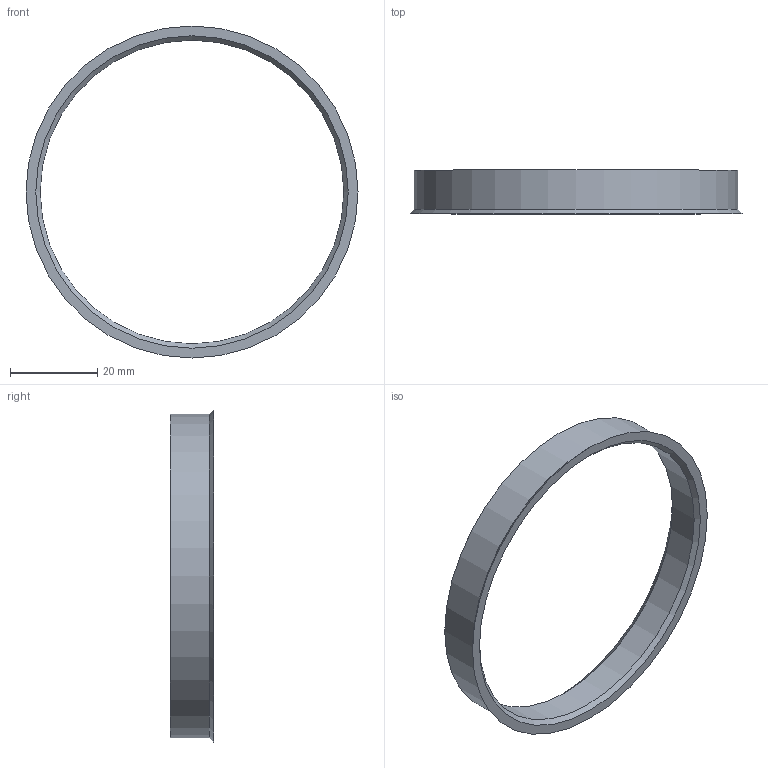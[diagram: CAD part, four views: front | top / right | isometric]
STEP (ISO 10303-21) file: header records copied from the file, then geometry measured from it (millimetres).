
FILE_DESCRIPTION(/* description */ (''),/* implementation_level */ '2;1');
FILE_NAME(/* name */ 'G:\CAD Library\Team Tasks\DIPP\11th Intake\Bradley Coles\Design Drafting\Random\Hub Rings\ipt\HubRing_74.1-69.6.stp',/* time_stamp */ '2025-07-22T13:43:08+08:00',/* author */ ('BCOLES'),/* organization */ (''),/* preprocessor_version */ 'ST-DEVELOPER v18.1',/* originating_system */ 'Autodesk Inventor 2022',/* authorisation */ '');
FILE_SCHEMA (('AUTOMOTIVE_DESIGN { 1 0 10303 214 3 1 1 }'));
Length unit declared in the file: millimetre
Products named in the file (1): HubRing_74.1-69.6
Bounding box: 76.1 x 10 x 76.1 mm (x, y, z)
Volume: 4640.2 mm3; surface area: 5489.3 mm2
Topology: 1 solids, 1 shells, 7 faces, 13 edges, 8 vertices
Faces by surface type: cone 3, cylinder 2, plane 2
Full cylindrical faces by diameter (mm): 69.6 x1, 74.1 x1
Entity records: 226 total; most frequent: DIRECTION 37, CARTESIAN_POINT 29, ORIENTED_EDGE 26, AXIS2_PLACEMENT_3D 16, EDGE_CURVE 13, EDGE_LOOP 9, CIRCLE 8, VERTEX_POINT 8
